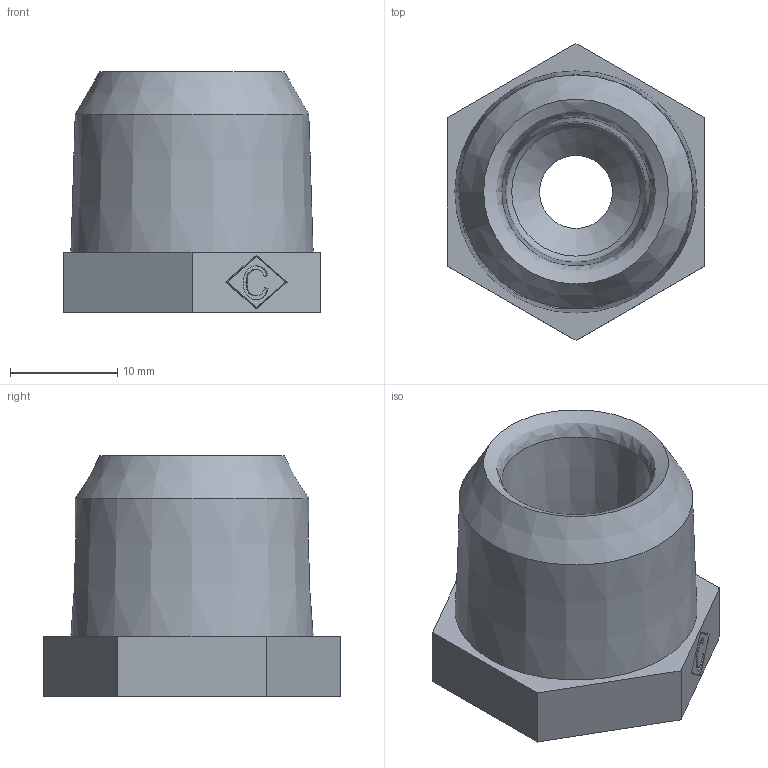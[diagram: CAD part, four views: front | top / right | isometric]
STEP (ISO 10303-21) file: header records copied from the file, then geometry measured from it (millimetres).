
FILE_DESCRIPTION((''),'2;1');
FILE_NAME('P:\Fastrack\53909_CRANE\Crane\Fig.140 Hexagon Bush\New 0.50 inch\140-0.50x0.35.stp','2009-09-10T13:00:39',('btaylor'),(''),'Autodesk Inventor 2008','Autodesk Inventor 2008','');
FILE_SCHEMA(('AUTOMOTIVE_DESIGN { 1 0 10303 214 1 1 1 1 }'));
Length unit declared in the file: millimetre
Products named in the file (1): 140-0.50x0.375
Bounding box: 24 x 27.71 x 22.4 mm (x, y, z)
Volume: 6489.3 mm3; surface area: 3059.8 mm2
Topology: 1 solids, 1 shells, 37 faces, 92 edges, 60 vertices
Faces by surface type: plane 21, bspline 10, cone 6
Entity records: 1235 total; most frequent: CARTESIAN_POINT 418, ORIENTED_EDGE 162, DIRECTION 130, EDGE_CURVE 81, VERTEX_POINT 57, VECTOR 56, LINE 56, EDGE_LOOP 50
